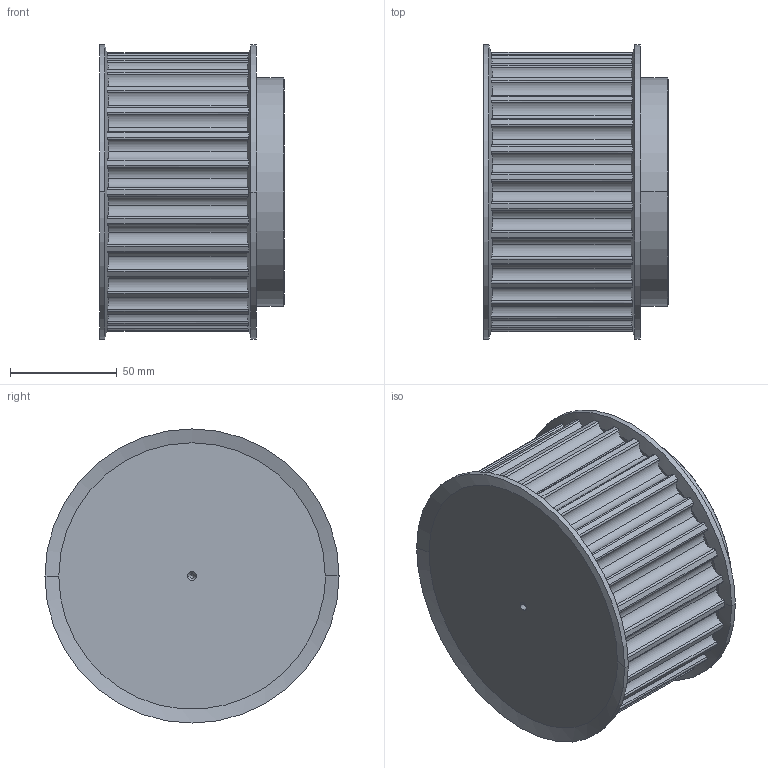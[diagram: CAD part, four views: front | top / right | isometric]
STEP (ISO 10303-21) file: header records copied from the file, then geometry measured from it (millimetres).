
FILE_DESCRIPTION(('STEP AP203'),'1');
FILE_NAME('30_-_14_m_55.stp','2019-07-24T07:04:28',('TraceParts'),('TraceParts S.A.'),'Spatial InterOp 3D',' ',' ');
FILE_SCHEMA(('CONFIG_CONTROL_DESIGN'));
Length unit declared in the file: millimetre
Products named in the file (1): 1
Bounding box: 86.74 x 138 x 138 mm (x, y, z)
Volume: 1019177.5 mm3; surface area: 77313.9 mm2
Topology: 1 solids, 1 shells, 241 faces, 700 edges, 460 vertices
Faces by surface type: cylinder 160, plane 63, cone 18
Entity records: 9496 total; most frequent: CARTESIAN_POINT 3318, ORIENTED_EDGE 1392, DIRECTION 1218, EDGE_CURVE 696, AXIS2_PLACEMENT_3D 520, VERTEX_POINT 460, CIRCLE 278, EDGE_LOOP 244
